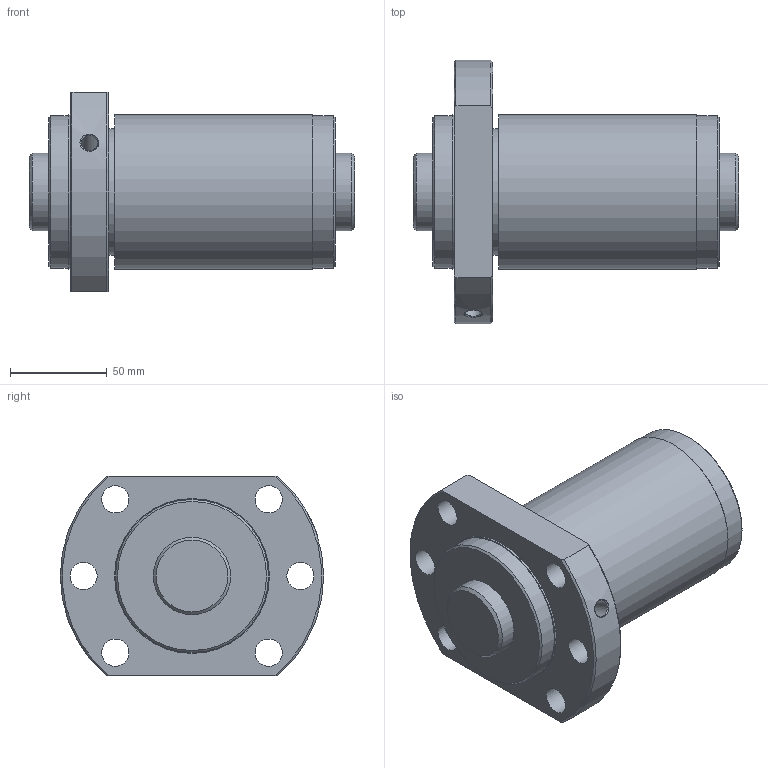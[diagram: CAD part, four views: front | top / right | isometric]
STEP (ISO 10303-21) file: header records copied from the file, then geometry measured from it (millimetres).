
FILE_DESCRIPTION(/* description */ ('STEP AP203'),/* implementation_level */ '2;1');
FILE_NAME(/* name */ 'SBK4030-7.6RRG0+168LC0(0000)',/* time_stamp */ '2024-05-28T11:20:16+02:00',/* author */ ('License CC BY-ND 4.0'),/* organization */ ('CADENAS'),/* preprocessor_version */ 'ST-DEVELOPER v19.3',/* originating_system */ 'PARTsolutions',/* authorisation */ ' ');
FILE_SCHEMA (('CONFIG_CONTROL_DESIGN'));
Length unit declared in the file: millimetre
Products named in the file (3): SBK4030-7.6RRG0+168LC0(0000); NRR000SBK4030-7.60Shaft; NRR000SBK4030-7.6Nut
Assembly tree (2 placements, depth 2):
  SBK4030-7.6RRG0+168LC0(0000)
    NRR000SBK4030-7.60Shaft
    NRR000SBK4030-7.6Nut
Bounding box: 168 x 136 x 103 mm (x, y, z)
Volume: 890018.4 mm3; surface area: 111801.7 mm2
Topology: 2 solids, 2 shells, 37 faces, 80 edges, 52 vertices
Faces by surface type: cylinder 16, plane 11, cone 10
Full cylindrical faces by diameter (mm): 8.566 x1, 14 x6, 40 x2, 65.44 x1, 79 x2, 80 x2
Entity records: 1020 total; most frequent: CARTESIAN_POINT 183, DIRECTION 168, ORIENTED_EDGE 114, AXIS2_PLACEMENT_3D 80, FACE_BOUND 77, EDGE_LOOP 76, EDGE_CURVE 57, VERTEX_POINT 50
